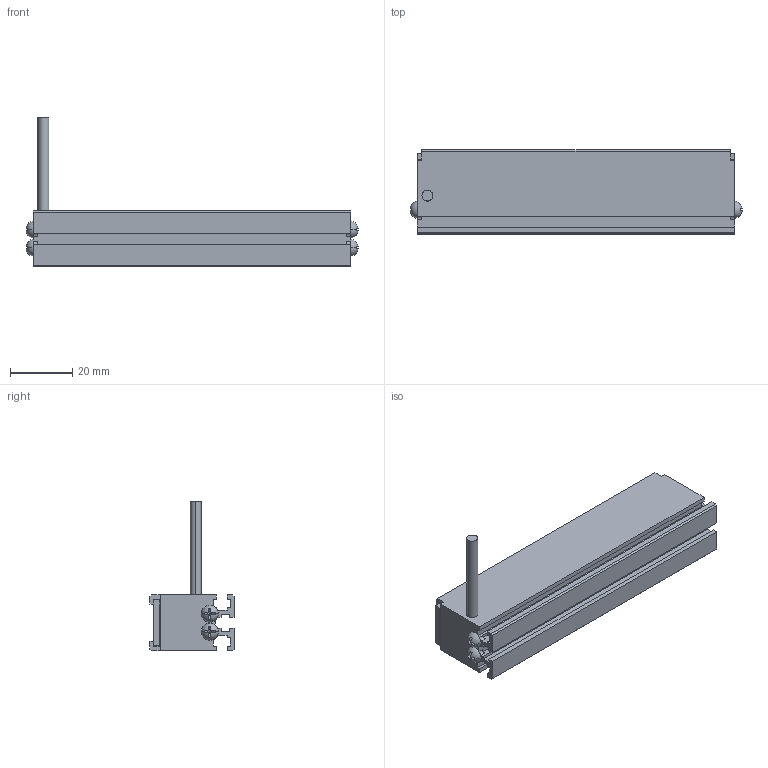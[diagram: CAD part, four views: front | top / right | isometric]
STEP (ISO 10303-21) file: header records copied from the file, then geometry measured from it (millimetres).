
FILE_DESCRIPTION((''),'2;1');
FILE_NAME('MV-LLDS-102-18_ASM','2020-12-29T',('Administrator'),(''),'PRO/ENGINEER BY PARAMETRIC TECHNOLOGY CORPORATION, 2010100','PRO/ENGINEER BY PARAMETRIC TECHNOLOGY CORPORATION, 2010100','');
FILE_SCHEMA(('CONFIG_CONTROL_DESIGN'));
Length unit declared in the file: millimetre
Products named in the file (3): BL_2_-_3; M3-5_3; MV-LLDS-102-18_ASM
Assembly tree (5 placements, depth 2):
  MV-LLDS-102-18_ASM
    BL_2_-_3
    M3-5_3  x4
Bounding box: 106.68 x 27 x 48 mm (x, y, z)
Volume: 40899.7 mm3; surface area: 19709.9 mm2
Topology: 5 solids, 11 shells, 237 faces, 626 edges, 406 vertices
Faces by surface type: plane 143, cylinder 58, bspline 16, torus 8, sphere 8, cone 4
Entity records: 4721 total; most frequent: CARTESIAN_POINT 1061, DIRECTION 738, ORIENTED_EDGE 738, EDGE_CURVE 375, VECTOR 262, LINE 262, VERTEX_POINT 247, AXIS2_PLACEMENT_3D 238
